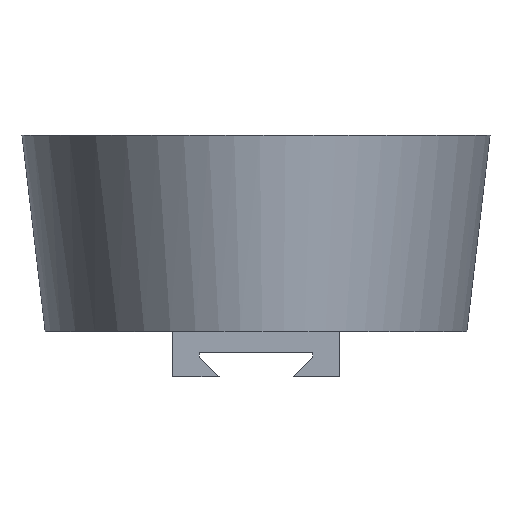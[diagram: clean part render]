
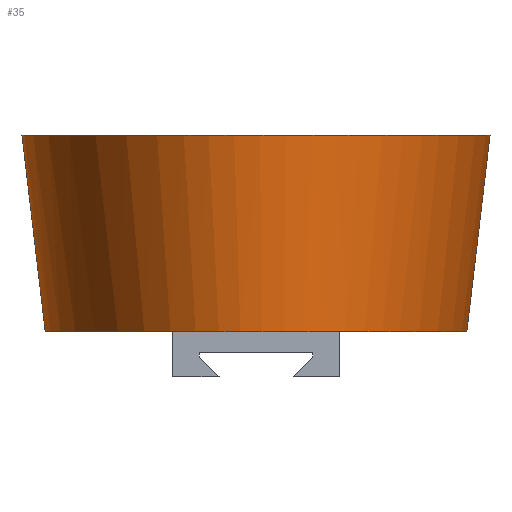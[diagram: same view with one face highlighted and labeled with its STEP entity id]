
A CAD part, left-side view. The second image highlights one B-rep face of the part: STEP entity #35.
In plain terms, the highlighted free-form (B-spline) face has degree [14, 1] with [15, 2] control points.
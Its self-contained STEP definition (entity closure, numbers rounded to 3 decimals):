
#35 = ADVANCED_FACE('',(#36),#49,.T.);
#36 = FACE_BOUND('',#37,.T.);
#37 = EDGE_LOOP('',(#38,#98,#120,#147));
#38 = ORIENTED_EDGE('',*,*,#39,.T.);
#39 = EDGE_CURVE('',#40,#40,#42,.T.);
#40 = VERTEX_POINT('',#41);
#41 = CARTESIAN_POINT('',(44.,0.,6.));
#42 = SURFACE_CURVE('',#43,(#48,#86),.PCURVE_S1.);
#43 = ELLIPSE('',#44,44.,28.);
#44 = AXIS2_PLACEMENT_3D('',#45,#46,#47);
#45 = CARTESIAN_POINT('',(0.,0.,6.));
#46 = DIRECTION('',(0.,0.,1.));
#47 = DIRECTION('',(1.,0.,-0.));
#48 = PCURVE('',#49,#80);
#49 = B_SPLINE_SURFACE_WITH_KNOTS('',14,1,(
    (#50,#51)
    ,(#52,#53)
    ,(#54,#55)
    ,(#56,#57)
    ,(#58,#59)
    ,(#60,#61)
    ,(#62,#63)
    ,(#64,#65)
    ,(#66,#67)
    ,(#68,#69)
    ,(#70,#71)
    ,(#72,#73)
    ,(#74,#75)
    ,(#76,#77)
    ,(#78,#79
    )),.UNSPECIFIED.,.T.,.F.,.F.,(15,15),(2,2),(0.,6.283),(0.,1.
    ),.PIECEWISE_BEZIER_KNOTS.);
#50 = CARTESIAN_POINT('',(44.,0.,6.));
#51 = CARTESIAN_POINT('',(47.,0.,32.));
#52 = CARTESIAN_POINT('',(44.,12.566,6.));
#53 = CARTESIAN_POINT('',(47.,13.913,
    32.));
#54 = CARTESIAN_POINT('',(34.456,25.133,6.
    ));
#55 = CARTESIAN_POINT('',(36.805,27.826,32.
    ));
#56 = CARTESIAN_POINT('',(15.367,34.519,6.
    ));
#57 = CARTESIAN_POINT('',(16.415,38.217,32.)
  );
#58 = CARTESIAN_POINT('',(-10.411,37.545,6.
    ));
#59 = CARTESIAN_POINT('',(-11.121,41.568,
    32.));
#60 = CARTESIAN_POINT('',(-37.17,32.171,6.
    ));
#61 = CARTESIAN_POINT('',(-39.704,35.618,
    32.));
#62 = CARTESIAN_POINT('',(-57.598,18.645,6.
    ));
#63 = CARTESIAN_POINT('',(-61.525,20.642,32.
    ));
#64 = CARTESIAN_POINT('',(-65.288,0.,
    6.));
#65 = CARTESIAN_POINT('',(-69.74,0.,
    32.));
#66 = CARTESIAN_POINT('',(-57.598,-18.645,6.
    ));
#67 = CARTESIAN_POINT('',(-61.525,-20.642,32.)
  );
#68 = CARTESIAN_POINT('',(-37.17,-32.171,6.)
  );
#69 = CARTESIAN_POINT('',(-39.704,-35.618,
    32.));
#70 = CARTESIAN_POINT('',(-10.411,-37.545,6.
    ));
#71 = CARTESIAN_POINT('',(-11.121,-41.568,
    32.));
#72 = CARTESIAN_POINT('',(15.367,-34.519,6.
    ));
#73 = CARTESIAN_POINT('',(16.415,-38.217,
    32.));
#74 = CARTESIAN_POINT('',(34.456,-25.133,6.
    ));
#75 = CARTESIAN_POINT('',(36.805,-27.826,
    32.));
#76 = CARTESIAN_POINT('',(44.,-12.566,6.));
#77 = CARTESIAN_POINT('',(47.,-13.913,32.
    ));
#78 = CARTESIAN_POINT('',(44.,0.,6.));
#79 = CARTESIAN_POINT('',(47.,0.,32.));
#80 = DEFINITIONAL_REPRESENTATION('',(#81),#85);
#81 = LINE('',#82,#83);
#82 = CARTESIAN_POINT('',(0.,0.));
#83 = VECTOR('',#84,1.);
#84 = DIRECTION('',(1.,0.));
#85 = ( GEOMETRIC_REPRESENTATION_CONTEXT(2) 
PARAMETRIC_REPRESENTATION_CONTEXT() REPRESENTATION_CONTEXT('2D SPACE',''
  ) );
#86 = PCURVE('',#87,#92);
#87 = PLANE('',#88);
#88 = AXIS2_PLACEMENT_3D('',#89,#90,#91);
#89 = CARTESIAN_POINT('',(0.,0.,6.));
#90 = DIRECTION('',(0.,0.,1.));
#91 = DIRECTION('',(1.,0.,-0.));
#92 = DEFINITIONAL_REPRESENTATION('',(#93),#97);
#93 = ELLIPSE('',#94,44.,28.);
#94 = AXIS2_PLACEMENT_2D('',#95,#96);
#95 = CARTESIAN_POINT('',(0.,0.));
#96 = DIRECTION('',(1.,0.));
#97 = ( GEOMETRIC_REPRESENTATION_CONTEXT(2) 
PARAMETRIC_REPRESENTATION_CONTEXT() REPRESENTATION_CONTEXT('2D SPACE',''
  ) );
#98 = ORIENTED_EDGE('',*,*,#99,.T.);
#99 = EDGE_CURVE('',#40,#100,#102,.T.);
#100 = VERTEX_POINT('',#101);
#101 = CARTESIAN_POINT('',(47.,0.,32.));
#102 = SEAM_CURVE('',#103,(#106,#113),.PCURVE_S1.);
#103 = B_SPLINE_CURVE_WITH_KNOTS('',1,(#104,#105),.UNSPECIFIED.,.F.,.F.,
  (2,2),(0.,1.),.PIECEWISE_BEZIER_KNOTS.);
#104 = CARTESIAN_POINT('',(44.,0.,6.));
#105 = CARTESIAN_POINT('',(47.,0.,32.));
#106 = PCURVE('',#49,#107);
#107 = DEFINITIONAL_REPRESENTATION('',(#108),#112);
#108 = LINE('',#109,#110);
#109 = CARTESIAN_POINT('',(6.283,0.));
#110 = VECTOR('',#111,1.);
#111 = DIRECTION('',(0.,1.));
#112 = ( GEOMETRIC_REPRESENTATION_CONTEXT(2) 
PARAMETRIC_REPRESENTATION_CONTEXT() REPRESENTATION_CONTEXT('2D SPACE',''
  ) );
#113 = PCURVE('',#49,#114);
#114 = DEFINITIONAL_REPRESENTATION('',(#115),#119);
#115 = LINE('',#116,#117);
#116 = CARTESIAN_POINT('',(0.,0.));
#117 = VECTOR('',#118,1.);
#118 = DIRECTION('',(0.,1.));
#119 = ( GEOMETRIC_REPRESENTATION_CONTEXT(2) 
PARAMETRIC_REPRESENTATION_CONTEXT() REPRESENTATION_CONTEXT('2D SPACE',''
  ) );
#120 = ORIENTED_EDGE('',*,*,#121,.F.);
#121 = EDGE_CURVE('',#100,#100,#122,.T.);
#122 = SURFACE_CURVE('',#123,(#128,#135),.PCURVE_S1.);
#123 = ELLIPSE('',#124,47.,31.);
#124 = AXIS2_PLACEMENT_3D('',#125,#126,#127);
#125 = CARTESIAN_POINT('',(0.,0.,32.));
#126 = DIRECTION('',(0.,0.,1.));
#127 = DIRECTION('',(1.,0.,-0.));
#128 = PCURVE('',#49,#129);
#129 = DEFINITIONAL_REPRESENTATION('',(#130),#134);
#130 = LINE('',#131,#132);
#131 = CARTESIAN_POINT('',(0.,1.));
#132 = VECTOR('',#133,1.);
#133 = DIRECTION('',(1.,0.));
#134 = ( GEOMETRIC_REPRESENTATION_CONTEXT(2) 
PARAMETRIC_REPRESENTATION_CONTEXT() REPRESENTATION_CONTEXT('2D SPACE',''
  ) );
#135 = PCURVE('',#136,#141);
#136 = PLANE('',#137);
#137 = AXIS2_PLACEMENT_3D('',#138,#139,#140);
#138 = CARTESIAN_POINT('',(0.,0.,32.));
#139 = DIRECTION('',(0.,0.,1.));
#140 = DIRECTION('',(1.,0.,-0.));
#141 = DEFINITIONAL_REPRESENTATION('',(#142),#146);
#142 = ELLIPSE('',#143,47.,31.);
#143 = AXIS2_PLACEMENT_2D('',#144,#145);
#144 = CARTESIAN_POINT('',(0.,0.));
#145 = DIRECTION('',(1.,0.));
#146 = ( GEOMETRIC_REPRESENTATION_CONTEXT(2) 
PARAMETRIC_REPRESENTATION_CONTEXT() REPRESENTATION_CONTEXT('2D SPACE',''
  ) );
#147 = ORIENTED_EDGE('',*,*,#99,.F.);
